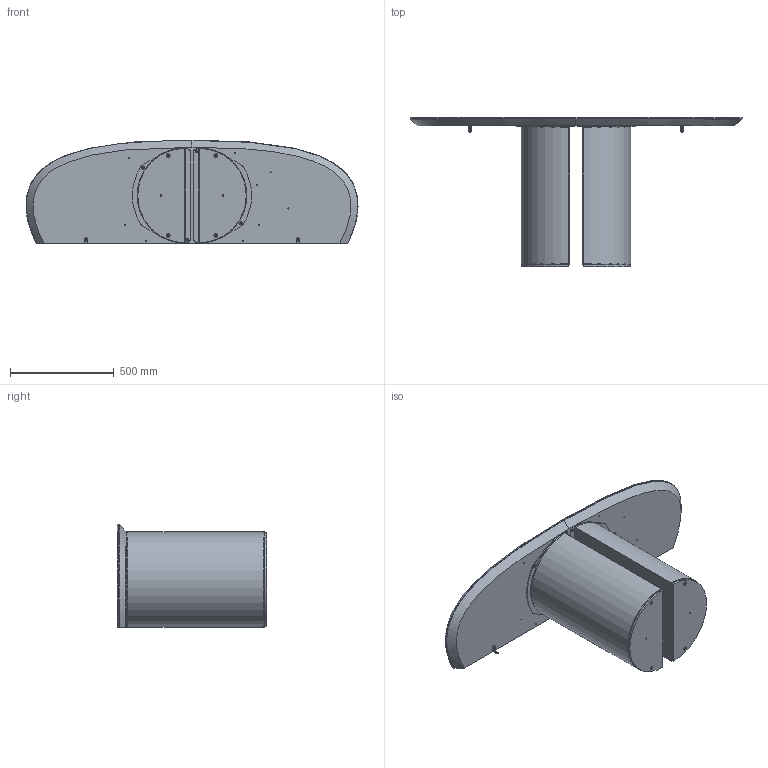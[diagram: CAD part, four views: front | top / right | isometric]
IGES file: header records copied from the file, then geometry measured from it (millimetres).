
Start section: SolidWorks IGES file using analytic representation for surfaces
Global section: file name: Y:\eforma\TECNICO\SOLIDWORKS\E-FORMA\3-CONSOLE\DORA CONSOLE\02 parts\DR60C_Dora Console_160x50x72h_Ceramic Shaped.IGS; native system: SolidWorks 2022; preprocessor: SolidWorks 2022; author: eforma.tech; date: 240806.114135; units: millimetre
Bounding box: 1599.92 x 719 x 500 mm (x, y, z)
Volume: 34409037.2 mm3; surface area: 7263109.2 mm2
Topology: 26 solids, 26 shells, 652 faces, 1457 edges, 827 vertices
Faces by surface type: revolution 364, plane 282, bspline 6
